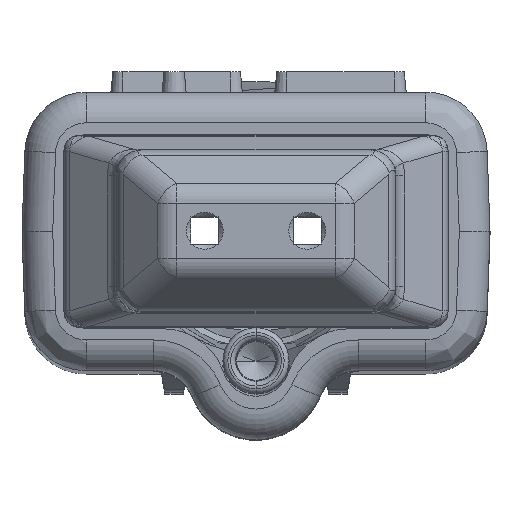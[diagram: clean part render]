
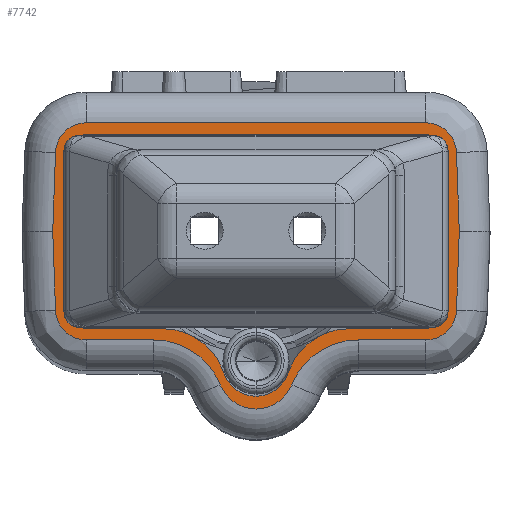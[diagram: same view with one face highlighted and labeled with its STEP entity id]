
A CAD part, top view. The second image highlights one B-rep face of the part: STEP entity #7742.
In plain terms, the highlighted planar face has unit normal (0, 0, 1).
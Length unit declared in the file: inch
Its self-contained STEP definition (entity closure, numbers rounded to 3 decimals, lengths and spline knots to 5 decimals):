
#242=DIRECTION('',(0.,1.,0.));
#243=VECTOR('',#242,0.142);
#244=CARTESIAN_POINT('',(0.1875,-0.071,1.856));
#245=LINE('',#244,#243);
#250=CARTESIAN_POINT('',(0.1635,0.071,1.856));
#251=DIRECTION('',(0.,0.,1.));
#252=DIRECTION('',(1.,0.,0.));
#253=AXIS2_PLACEMENT_3D('',#250,#251,#252);
#258=DIRECTION('',(-1.,0.,0.));
#259=VECTOR('',#258,0.07226);
#260=CARTESIAN_POINT('',(0.1635,0.095,1.856));
#261=LINE('',#260,#259);
#265=CARTESIAN_POINT('',(0.09124,0.158,1.856));
#266=DIRECTION('',(0.,0.,-1.));
#267=DIRECTION('',(0.,-1.,0.));
#268=AXIS2_PLACEMENT_3D('',#265,#266,#267);
#273=DIRECTION('',(-0.342,0.94,0.));
#274=VECTOR('',#273,0.00302);
#275=CARTESIAN_POINT('',(0.03204,0.13645,1.856));
#276=LINE('',#275,#274);
#280=CARTESIAN_POINT('',(0.,0.128,1.856));
#281=DIRECTION('',(0.,0.,1.));
#282=DIRECTION('',(0.94,0.342,0.));
#283=AXIS2_PLACEMENT_3D('',#280,#281,#282);
#288=DIRECTION('',(-0.342,-0.94,0.));
#289=VECTOR('',#288,0.00302);
#290=CARTESIAN_POINT('',(-0.03101,0.13929,1.856));
#291=LINE('',#290,#289);
#295=CARTESIAN_POINT('',(-0.09124,0.158,1.856));
#296=DIRECTION('',(0.,0.,-1.));
#297=DIRECTION('',(0.94,-0.342,0.));
#298=AXIS2_PLACEMENT_3D('',#295,#296,#297);
#303=DIRECTION('',(-1.,0.,0.));
#304=VECTOR('',#303,0.07226);
#305=CARTESIAN_POINT('',(-0.09124,0.095,1.856));
#306=LINE('',#305,#304);
#310=CARTESIAN_POINT('',(-0.1635,0.071,1.856));
#311=DIRECTION('',(0.,0.,1.));
#312=DIRECTION('',(0.,1.,0.));
#313=AXIS2_PLACEMENT_3D('',#310,#311,#312);
#318=DIRECTION('',(0.,-1.,0.));
#319=VECTOR('',#318,0.142);
#320=CARTESIAN_POINT('',(-0.1875,0.071,1.856));
#321=LINE('',#320,#319);
#325=CARTESIAN_POINT('',(-0.1635,-0.071,1.856));
#326=DIRECTION('',(0.,0.,1.));
#327=DIRECTION('',(-1.,0.,0.));
#328=AXIS2_PLACEMENT_3D('',#325,#326,#327);
#333=DIRECTION('',(1.,0.,0.));
#334=VECTOR('',#333,0.327);
#335=CARTESIAN_POINT('',(-0.1635,-0.095,1.856));
#336=LINE('',#335,#334);
#340=CARTESIAN_POINT('',(0.1635,-0.071,1.856));
#341=DIRECTION('',(0.,0.,1.));
#342=DIRECTION('',(0.,-1.,0.));
#343=AXIS2_PLACEMENT_3D('',#340,#341,#342);
#5687=DIRECTION('',(-0.035,0.999,0.));
#5688=VECTOR('',#5687,0.07709);
#5689=CARTESIAN_POINT('',(0.19848,0.,1.856));
#5690=LINE('',#5689,#5688);
#5713=CARTESIAN_POINT('',(0.16581,0.076,1.856));
#5714=DIRECTION('',(0.,0.,1.));
#5715=DIRECTION('',(0.999,0.035,0.));
#5716=AXIS2_PLACEMENT_3D('',#5713,#5714,#5715);
#5737=DIRECTION('',(-1.,0.,0.));
#5738=VECTOR('',#5737,0.06603);
#5739=CARTESIAN_POINT('',(0.16581,0.106,1.856));
#5740=LINE('',#5739,#5738);
#5759=CARTESIAN_POINT('',(0.09978,0.176,1.856));
#5760=DIRECTION('',(0.,0.,-1.));
#5761=DIRECTION('',(0.,-1.,0.));
#5762=AXIS2_PLACEMENT_3D('',#5759,#5760,#5761);
#5783=CARTESIAN_POINT('',(0.,0.136,1.856));
#5784=DIRECTION('',(0.,0.,1.));
#5785=DIRECTION('',(0.928,0.372,0.));
#5786=AXIS2_PLACEMENT_3D('',#5783,#5784,#5785);
#5807=CARTESIAN_POINT('',(-0.09978,0.176,1.856));
#5808=DIRECTION('',(0.,0.,-1.));
#5809=DIRECTION('',(0.928,-0.372,0.));
#5810=AXIS2_PLACEMENT_3D('',#5807,#5808,#5809);
#5831=DIRECTION('',(-1.,0.,0.));
#5832=VECTOR('',#5831,0.06603);
#5833=CARTESIAN_POINT('',(-0.09978,0.106,1.856));
#5834=LINE('',#5833,#5832);
#5853=CARTESIAN_POINT('',(-0.16581,0.076,1.856));
#5854=DIRECTION('',(0.,0.,1.));
#5855=DIRECTION('',(0.,1.,0.));
#5856=AXIS2_PLACEMENT_3D('',#5853,#5854,#5855);
#5877=DIRECTION('',(-0.035,-0.999,0.));
#5878=VECTOR('',#5877,0.07709);
#5879=CARTESIAN_POINT('',(-0.19579,0.07705,1.856));
#5880=LINE('',#5879,#5878);
#5911=DIRECTION('',(0.035,-0.999,0.));
#5912=VECTOR('',#5911,0.07709);
#5913=CARTESIAN_POINT('',(-0.19848,0.,1.856));
#5914=LINE('',#5913,#5912);
#5925=CARTESIAN_POINT('',(-0.16581,-0.076,1.856));
#5926=DIRECTION('',(0.,0.,1.));
#5927=DIRECTION('',(-0.999,-0.035,0.));
#5928=AXIS2_PLACEMENT_3D('',#5925,#5926,#5927);
#5949=DIRECTION('',(1.,0.,0.));
#5950=VECTOR('',#5949,0.33162);
#5951=CARTESIAN_POINT('',(-0.16581,-0.106,1.856));
#5952=LINE('',#5951,#5950);
#5971=CARTESIAN_POINT('',(0.16581,-0.076,1.856));
#5972=DIRECTION('',(0.,0.,1.));
#5973=DIRECTION('',(0.,-1.,0.));
#5974=AXIS2_PLACEMENT_3D('',#5971,#5972,#5973);
#5995=DIRECTION('',(0.035,0.999,0.));
#5996=VECTOR('',#5995,0.07709);
#5997=CARTESIAN_POINT('',(0.19579,-0.07705,1.856));
#5998=LINE('',#5997,#5996);
#7355=CARTESIAN_POINT('',(0.19848,0.,1.856));
#7356=CARTESIAN_POINT('',(0.19579,0.07705,1.856));
#7357=VERTEX_POINT('',#7355);
#7358=VERTEX_POINT('',#7356);
#7363=CARTESIAN_POINT('',(0.16581,0.106,1.856));
#7364=VERTEX_POINT('',#7363);
#7367=CARTESIAN_POINT('',(0.09978,0.106,1.856));
#7368=VERTEX_POINT('',#7367);
#7371=CARTESIAN_POINT('',(-0.09978,0.106,1.856));
#7372=CARTESIAN_POINT('',(-0.16581,0.106,1.856));
#7373=VERTEX_POINT('',#7371);
#7374=VERTEX_POINT('',#7372);
#7379=CARTESIAN_POINT('',(-0.19579,0.07705,1.856));
#7380=VERTEX_POINT('',#7379);
#7383=CARTESIAN_POINT('',(-0.19848,0.,1.856));
#7384=VERTEX_POINT('',#7383);
#7387=CARTESIAN_POINT('',(-0.19579,-0.07705,1.856));
#7388=VERTEX_POINT('',#7387);
#7391=CARTESIAN_POINT('',(-0.16581,-0.106,1.856));
#7392=VERTEX_POINT('',#7391);
#7395=CARTESIAN_POINT('',(0.16581,-0.106,1.856));
#7396=VERTEX_POINT('',#7395);
#7399=CARTESIAN_POINT('',(0.19579,-0.07705,1.856));
#7400=VERTEX_POINT('',#7399);
#7496=CARTESIAN_POINT('',(0.03481,0.14995,1.856));
#7497=VERTEX_POINT('',#7496);
#7500=CARTESIAN_POINT('',(-0.03481,0.14995,1.856));
#7501=VERTEX_POINT('',#7500);
#7526=CARTESIAN_POINT('',(0.1875,-0.071,1.856));
#7528=VERTEX_POINT('',#7526);
#7530=CARTESIAN_POINT('',(0.1875,0.071,1.856));
#7532=VERTEX_POINT('',#7530);
#7534=CARTESIAN_POINT('',(0.1635,0.095,1.856));
#7536=VERTEX_POINT('',#7534);
#7538=CARTESIAN_POINT('',(0.09124,0.095,1.856));
#7540=VERTEX_POINT('',#7538);
#7542=CARTESIAN_POINT('',(0.03204,0.13645,1.856));
#7544=VERTEX_POINT('',#7542);
#7546=CARTESIAN_POINT('',(0.03101,0.13929,1.856));
#7548=VERTEX_POINT('',#7546);
#7550=CARTESIAN_POINT('',(-0.03101,0.13929,1.856));
#7552=VERTEX_POINT('',#7550);
#7554=CARTESIAN_POINT('',(-0.03204,0.13645,1.856));
#7556=VERTEX_POINT('',#7554);
#7558=CARTESIAN_POINT('',(-0.09124,0.095,1.856));
#7560=VERTEX_POINT('',#7558);
#7562=CARTESIAN_POINT('',(-0.1635,0.095,1.856));
#7564=VERTEX_POINT('',#7562);
#7566=CARTESIAN_POINT('',(-0.1875,0.071,1.856));
#7568=VERTEX_POINT('',#7566);
#7570=CARTESIAN_POINT('',(-0.1875,-0.071,1.856));
#7572=VERTEX_POINT('',#7570);
#7574=CARTESIAN_POINT('',(-0.1635,-0.095,1.856));
#7576=VERTEX_POINT('',#7574);
#7578=CARTESIAN_POINT('',(0.1635,-0.095,1.856));
#7580=VERTEX_POINT('',#7578);
#7677=CARTESIAN_POINT('',(0.,0.,1.856));
#7678=DIRECTION('',(0.,0.,1.));
#7679=DIRECTION('',(-1.,0.,0.));
#7680=AXIS2_PLACEMENT_3D('',#7677,#7678,#7679);
#7681=PLANE('',#7680);
#7683=ORIENTED_EDGE('',*,*,#7682,.F.);
#7685=ORIENTED_EDGE('',*,*,#7684,.F.);
#7687=ORIENTED_EDGE('',*,*,#7686,.F.);
#7689=ORIENTED_EDGE('',*,*,#7688,.F.);
#7691=ORIENTED_EDGE('',*,*,#7690,.F.);
#7693=ORIENTED_EDGE('',*,*,#7692,.F.);
#7695=ORIENTED_EDGE('',*,*,#7694,.F.);
#7697=ORIENTED_EDGE('',*,*,#7696,.F.);
#7699=ORIENTED_EDGE('',*,*,#7698,.F.);
#7701=ORIENTED_EDGE('',*,*,#7700,.F.);
#7703=ORIENTED_EDGE('',*,*,#7702,.F.);
#7705=ORIENTED_EDGE('',*,*,#7704,.F.);
#7707=ORIENTED_EDGE('',*,*,#7706,.F.);
#7709=ORIENTED_EDGE('',*,*,#7708,.F.);
#7710=EDGE_LOOP('',(#7683,#7685,#7687,#7689,#7691,#7693,#7695,#7697,#7699,#7701,
#7703,#7705,#7707,#7709));
#7711=FACE_OUTER_BOUND('',#7710,.F.);
#7713=ORIENTED_EDGE('',*,*,#7712,.T.);
#7715=ORIENTED_EDGE('',*,*,#7714,.T.);
#7717=ORIENTED_EDGE('',*,*,#7716,.T.);
#7719=ORIENTED_EDGE('',*,*,#7718,.T.);
#7721=ORIENTED_EDGE('',*,*,#7720,.T.);
#7723=ORIENTED_EDGE('',*,*,#7722,.T.);
#7725=ORIENTED_EDGE('',*,*,#7724,.T.);
#7727=ORIENTED_EDGE('',*,*,#7726,.T.);
#7729=ORIENTED_EDGE('',*,*,#7728,.T.);
#7731=ORIENTED_EDGE('',*,*,#7730,.T.);
#7733=ORIENTED_EDGE('',*,*,#7732,.T.);
#7735=ORIENTED_EDGE('',*,*,#7734,.T.);
#7737=ORIENTED_EDGE('',*,*,#7736,.T.);
#7739=ORIENTED_EDGE('',*,*,#7738,.T.);
#7740=EDGE_LOOP('',(#7713,#7715,#7717,#7719,#7721,#7723,#7725,#7727,#7729,#7731,
#7733,#7735,#7737,#7739));
#7741=FACE_BOUND('',#7740,.F.);
#7742=ADVANCED_FACE('',(#7711,#7741),#7681,.T.);
#254=CIRCLE('',#253,0.024);
#269=CIRCLE('',#268,0.063);
#284=CIRCLE('',#283,0.033);
#299=CIRCLE('',#298,0.063);
#314=CIRCLE('',#313,0.024);
#329=CIRCLE('',#328,0.024);
#344=CIRCLE('',#343,0.024);
#5717=CIRCLE('',#5716,0.03);
#5763=CIRCLE('',#5762,0.07);
#5787=CIRCLE('',#5786,0.0375);
#5811=CIRCLE('',#5810,0.07);
#5857=CIRCLE('',#5856,0.03);
#5929=CIRCLE('',#5928,0.03);
#5975=CIRCLE('',#5974,0.03);
#7682=EDGE_CURVE('',#7357,#7358,#5690,.T.);
#7684=EDGE_CURVE('',#7400,#7357,#5998,.T.);
#7686=EDGE_CURVE('',#7396,#7400,#5975,.T.);
#7688=EDGE_CURVE('',#7392,#7396,#5952,.T.);
#7690=EDGE_CURVE('',#7388,#7392,#5929,.T.);
#7692=EDGE_CURVE('',#7384,#7388,#5914,.T.);
#7694=EDGE_CURVE('',#7380,#7384,#5880,.T.);
#7696=EDGE_CURVE('',#7374,#7380,#5857,.T.);
#7698=EDGE_CURVE('',#7373,#7374,#5834,.T.);
#7700=EDGE_CURVE('',#7501,#7373,#5811,.T.);
#7702=EDGE_CURVE('',#7497,#7501,#5787,.T.);
#7704=EDGE_CURVE('',#7368,#7497,#5763,.T.);
#7706=EDGE_CURVE('',#7364,#7368,#5740,.T.);
#7708=EDGE_CURVE('',#7358,#7364,#5717,.T.);
#7712=EDGE_CURVE('',#7528,#7532,#245,.T.);
#7714=EDGE_CURVE('',#7532,#7536,#254,.T.);
#7716=EDGE_CURVE('',#7536,#7540,#261,.T.);
#7718=EDGE_CURVE('',#7540,#7544,#269,.T.);
#7720=EDGE_CURVE('',#7544,#7548,#276,.T.);
#7722=EDGE_CURVE('',#7548,#7552,#284,.T.);
#7724=EDGE_CURVE('',#7552,#7556,#291,.T.);
#7726=EDGE_CURVE('',#7556,#7560,#299,.T.);
#7728=EDGE_CURVE('',#7560,#7564,#306,.T.);
#7730=EDGE_CURVE('',#7564,#7568,#314,.T.);
#7732=EDGE_CURVE('',#7568,#7572,#321,.T.);
#7734=EDGE_CURVE('',#7572,#7576,#329,.T.);
#7736=EDGE_CURVE('',#7576,#7580,#336,.T.);
#7738=EDGE_CURVE('',#7580,#7528,#344,.T.);
